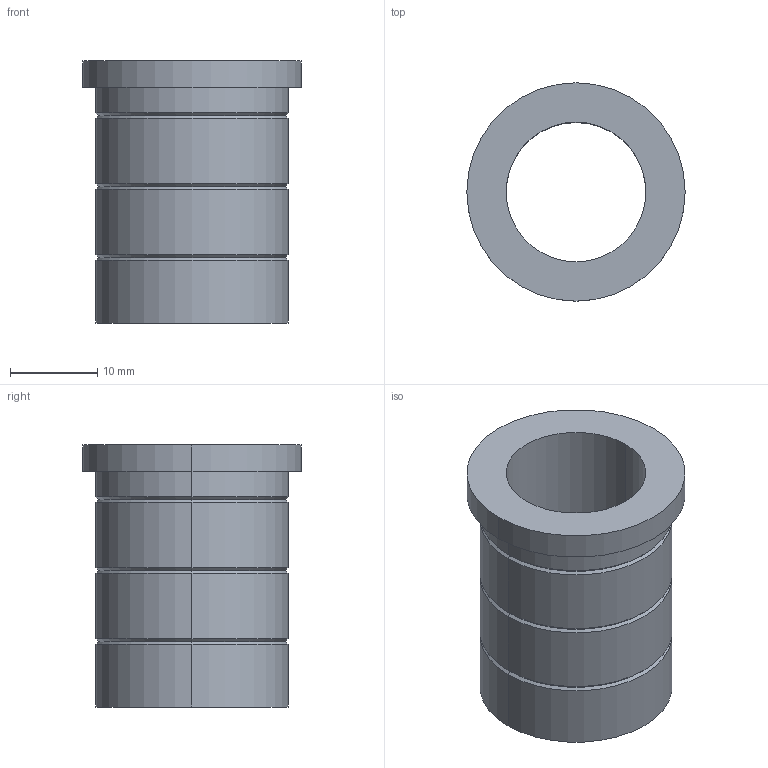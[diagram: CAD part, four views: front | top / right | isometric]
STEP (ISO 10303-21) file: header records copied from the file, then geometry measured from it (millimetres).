
FILE_DESCRIPTION(/* description */ (''),/* implementation_level */ '2;1');
FILE_NAME(/* name */ '3d_sgbt16-30_00017_r00.stp',/* time_stamp */ '2011-01-10T14:11:12+09:00',/* author */ ('MISUMI'),/* organization */ (''),/* preprocessor_version */ 'ST-DEVELOPER v11',/* originating_system */ 'UGS - NX 5.0',/* authorisation */ '');
FILE_SCHEMA (('CONFIG_CONTROL_DESIGN'));
Length unit declared in the file: millimetre
Products named in the file (1): 3d_sgbt16-30_00017_r00
Bounding box: 25 x 25 x 30 mm (x, y, z)
Volume: 5685.9 mm3; surface area: 4238.4 mm2
Topology: 1 solids, 1 shells, 27 faces, 54 edges, 30 vertices
Faces by surface type: cylinder 12, cone 12, plane 3
Entity records: 784 total; most frequent: DIRECTION 140, CARTESIAN_POINT 112, ORIENTED_EDGE 108, AXIS2_PLACEMENT_3D 58, EDGE_CURVE 54, EDGE_LOOP 30, VERTEX_POINT 30, CIRCLE 30
